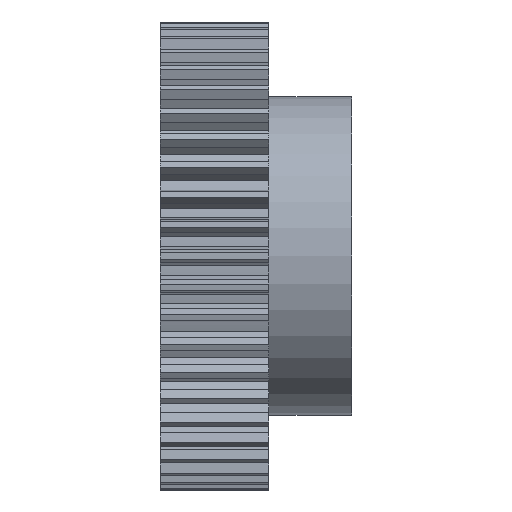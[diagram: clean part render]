
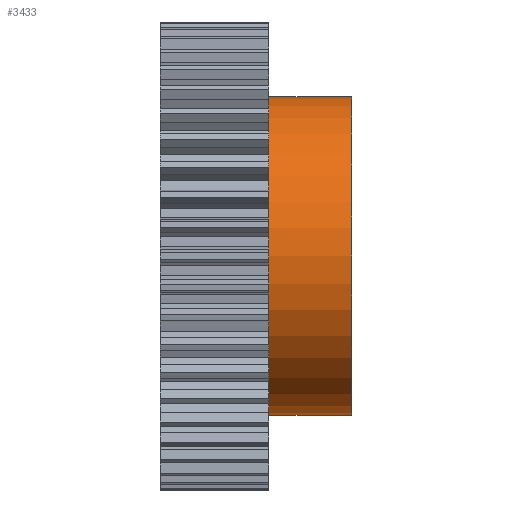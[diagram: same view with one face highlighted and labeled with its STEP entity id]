
A CAD part, front view. The second image highlights one B-rep face of the part: STEP entity #3433.
In plain terms, the highlighted cylindrical face has radius 25 mm (diameter 50 mm), a partial arc.
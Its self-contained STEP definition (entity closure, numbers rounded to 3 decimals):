
#1732 = VERTEX_POINT ( 'NONE', #6700 ) ;
#1767 = EDGE_CURVE ( 'NONE', #1777, #1799, #6679, .T. ) ;
#1777 = VERTEX_POINT ( 'NONE', #6712 ) ;
#1778 = EDGE_CURVE ( 'NONE', #1732, #1793, #6754, .T. ) ;
#1793 = VERTEX_POINT ( 'NONE', #6792 ) ;
#1799 = VERTEX_POINT ( 'NONE', #6786 ) ;
#3141 = EDGE_CURVE ( 'NONE', #1799, #1793, #8907, .T. ) ;
#3145 = EDGE_CURVE ( 'NONE', #1732, #1777, #8906, .T. ) ;
#3413 = ORIENTED_EDGE ( 'NONE', *, *, #1778, .F. ) ;
#3432 = ORIENTED_EDGE ( 'NONE', *, *, #3145, .T. ) ;
#3433 = ADVANCED_FACE ( 'NONE', ( #8935 ), #8982, .T. ) ;
#3434 = ORIENTED_EDGE ( 'NONE', *, *, #1767, .T. ) ;
#3435 = ORIENTED_EDGE ( 'NONE', *, *, #3141, .T. ) ;
#3444 = EDGE_LOOP ( 'NONE', ( #3413, #3432, #3434, #3435 ) ) ;
#6678 = CARTESIAN_POINT ( 'NONE',  ( 8.5, 0., 25. ) ) ;
#6679 = LINE ( 'NONE', #6678, #6715 ) ;
#6700 = CARTESIAN_POINT ( 'NONE',  ( 21.5, 0., -25. ) ) ;
#6712 = CARTESIAN_POINT ( 'NONE',  ( 21.5, 0., 25. ) ) ;
#6714 = DIRECTION ( 'NONE',  ( -1., 0., 0. ) ) ;
#6715 = VECTOR ( 'NONE', #6714, 1000. ) ;
#6751 = DIRECTION ( 'NONE',  ( -1., 0., 0. ) ) ;
#6752 = VECTOR ( 'NONE', #6751, 1000. ) ;
#6753 = CARTESIAN_POINT ( 'NONE',  ( 8.5, 0., -25. ) ) ;
#6754 = LINE ( 'NONE', #6753, #6752 ) ;
#6786 = CARTESIAN_POINT ( 'NONE',  ( 8.5, 0., 25. ) ) ;
#6792 = CARTESIAN_POINT ( 'NONE',  ( 8.5, 0., -25. ) ) ;
#8893 = DIRECTION ( 'NONE',  ( 0., 0., 1. ) ) ;
#8894 = DIRECTION ( 'NONE',  ( -1., 0., 0. ) ) ;
#8895 = CARTESIAN_POINT ( 'NONE',  ( 21.5, 0., 0. ) ) ;
#8902 = DIRECTION ( 'NONE',  ( 0., 0., 1. ) ) ;
#8903 = DIRECTION ( 'NONE',  ( 1., 0., 0. ) ) ;
#8904 = CARTESIAN_POINT ( 'NONE',  ( 8.5, 0., 0. ) ) ;
#8905 = AXIS2_PLACEMENT_3D ( 'NONE', #8904, #8903, #8902 ) ;
#8906 = CIRCLE ( 'NONE', #8916, 25. ) ;
#8907 = CIRCLE ( 'NONE', #8905, 25. ) ;
#8916 = AXIS2_PLACEMENT_3D ( 'NONE', #8895, #8894, #8893 ) ;
#8935 = FACE_OUTER_BOUND ( 'NONE', #3444, .T. ) ;
#8973 = DIRECTION ( 'NONE',  ( 0., 0., 1. ) ) ;
#8979 = DIRECTION ( 'NONE',  ( -1., 0., 0. ) ) ;
#8980 = CARTESIAN_POINT ( 'NONE',  ( 8.5, 0., 0. ) ) ;
#8981 = AXIS2_PLACEMENT_3D ( 'NONE', #8980, #8979, #8973 ) ;
#8982 = CYLINDRICAL_SURFACE ( 'NONE', #8981, 25. ) ;
